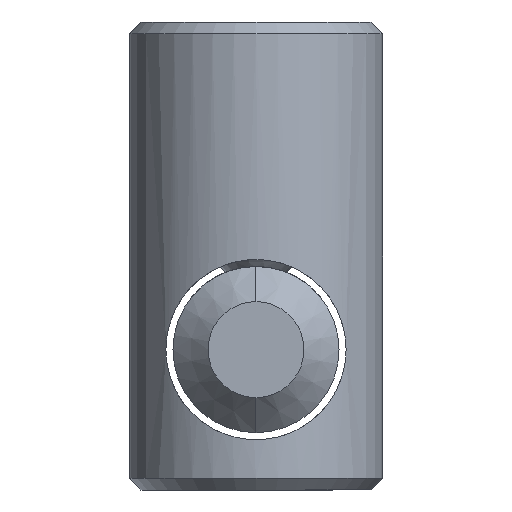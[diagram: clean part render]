
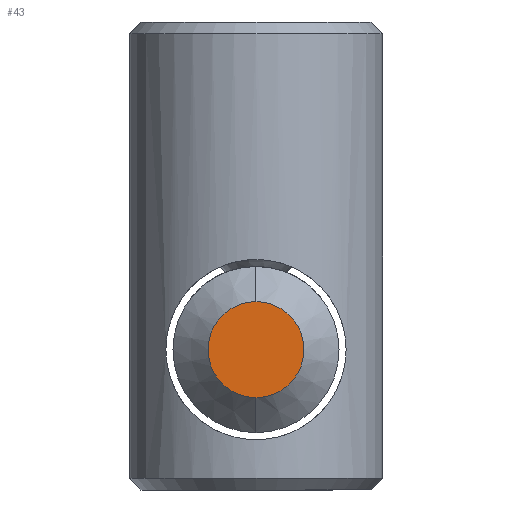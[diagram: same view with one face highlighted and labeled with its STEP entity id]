
A CAD part, left-side view. The second image highlights one B-rep face of the part: STEP entity #43.
In plain terms, the highlighted planar face has unit normal (-1, 0, 0).
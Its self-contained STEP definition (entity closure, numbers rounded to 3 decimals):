
#30 = EDGE_CURVE ( 'NONE', #2069, #351, #466, .T. ) ;
#43 = ADVANCED_FACE ( 'NONE', ( #1544 ), #2006, .T. ) ;
#351 = VERTEX_POINT ( 'NONE', #1087 ) ;
#466 = CIRCLE ( 'NONE', #1987, 2.05 ) ;
#593 = CIRCLE ( 'NONE', #964, 2.05 ) ;
#634 = DIRECTION ( 'NONE',  ( 1., 0., 0. ) ) ;
#835 = CARTESIAN_POINT ( 'NONE',  ( -37.5, 0., -1.95 ) ) ;
#964 = AXIS2_PLACEMENT_3D ( 'NONE', #2863, #1268, #1233 ) ;
#974 = ORIENTED_EDGE ( 'NONE', *, *, #30, .F. ) ;
#1087 = CARTESIAN_POINT ( 'NONE',  ( -37.5, 0., -6.05 ) ) ;
#1137 = ORIENTED_EDGE ( 'NONE', *, *, #1787, .F. ) ;
#1233 = DIRECTION ( 'NONE',  ( 0., 0., -1. ) ) ;
#1268 = DIRECTION ( 'NONE',  ( 1., 0., 0. ) ) ;
#1332 = CARTESIAN_POINT ( 'NONE',  ( -37.5, 1.025, -4. ) ) ;
#1347 = DIRECTION ( 'NONE',  ( -1., 0., 0. ) ) ;
#1544 = FACE_OUTER_BOUND ( 'NONE', #1677, .T. ) ;
#1677 = EDGE_LOOP ( 'NONE', ( #1137, #974 ) ) ;
#1787 = EDGE_CURVE ( 'NONE', #351, #2069, #593, .T. ) ;
#1797 = AXIS2_PLACEMENT_3D ( 'NONE', #1332, #1347, #2467 ) ;
#1842 = CARTESIAN_POINT ( 'NONE',  ( -37.5, 0., -4. ) ) ;
#1987 = AXIS2_PLACEMENT_3D ( 'NONE', #1842, #634, #2047 ) ;
#2006 = PLANE ( 'NONE',  #1797 ) ;
#2047 = DIRECTION ( 'NONE',  ( 0., 0., -1. ) ) ;
#2069 = VERTEX_POINT ( 'NONE', #835 ) ;
#2467 = DIRECTION ( 'NONE',  ( 0., -1., 0. ) ) ;
#2863 = CARTESIAN_POINT ( 'NONE',  ( -37.5, 0., -4. ) ) ;
